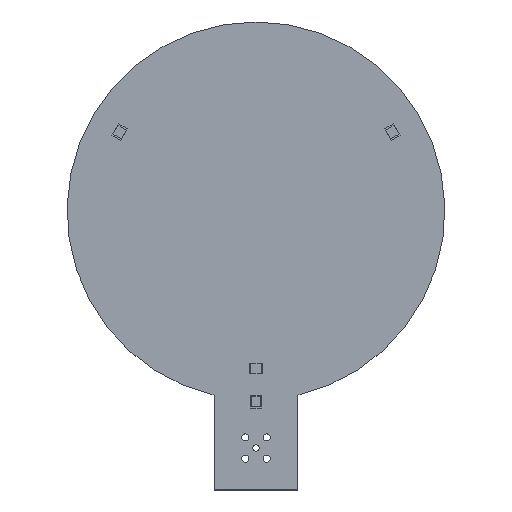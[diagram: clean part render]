
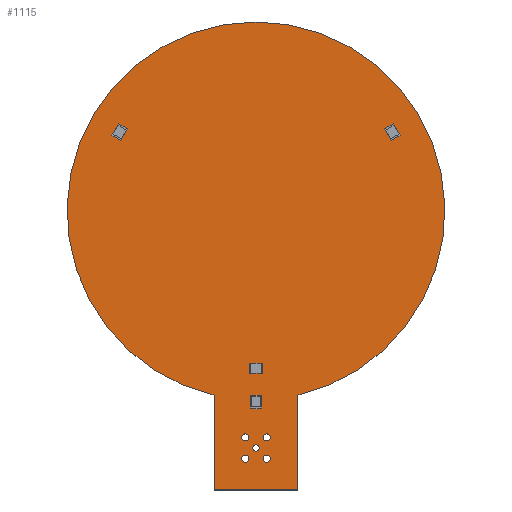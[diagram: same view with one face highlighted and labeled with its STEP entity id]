
A CAD part, top view. The second image highlights one B-rep face of the part: STEP entity #1115.
In plain terms, the highlighted planar face has unit normal (0, 0, 1).
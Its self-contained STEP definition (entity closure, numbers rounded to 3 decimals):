
#946 = VERTEX_POINT('',#947);
#947 = CARTESIAN_POINT('',(90.,-143.875,1.53));
#953 = EDGE_CURVE('',#946,#954,#956,.T.);
#954 = VERTEX_POINT('',#955);
#955 = CARTESIAN_POINT('',(110.,-143.875,1.53));
#956 = CIRCLE('',#957,45.);
#957 = AXIS2_PLACEMENT_3D('',#958,#959,#960);
#958 = CARTESIAN_POINT('',(100.,-100.,1.53));
#959 = DIRECTION('',(0.,0.,-1.));
#960 = DIRECTION('',(-0.222,-0.975,-0.));
#988 = VERTEX_POINT('',#989);
#989 = CARTESIAN_POINT('',(90.,-166.5,1.53));
#995 = EDGE_CURVE('',#988,#946,#996,.T.);
#996 = LINE('',#997,#998);
#997 = CARTESIAN_POINT('',(90.,-166.5,1.53));
#998 = VECTOR('',#999,1.);
#999 = DIRECTION('',(0.,1.,0.));
#1017 = EDGE_CURVE('',#954,#1018,#1020,.T.);
#1018 = VERTEX_POINT('',#1019);
#1019 = CARTESIAN_POINT('',(110.,-166.5,1.53));
#1020 = LINE('',#1021,#1022);
#1021 = CARTESIAN_POINT('',(110.,-143.875,1.53));
#1022 = VECTOR('',#1023,1.);
#1023 = DIRECTION('',(0.,-1.,0.));
#1115 = ADVANCED_FACE('',(#1116,#1127,#1138,#1149,#1160,#1171),#1182,.T.
  );
#1116 = FACE_BOUND('',#1117,.T.);
#1117 = EDGE_LOOP('',(#1118,#1119,#1120,#1126));
#1118 = ORIENTED_EDGE('',*,*,#953,.F.);
#1119 = ORIENTED_EDGE('',*,*,#995,.F.);
#1120 = ORIENTED_EDGE('',*,*,#1121,.F.);
#1121 = EDGE_CURVE('',#1018,#988,#1122,.T.);
#1122 = LINE('',#1123,#1124);
#1123 = CARTESIAN_POINT('',(110.,-166.5,1.53));
#1124 = VECTOR('',#1125,1.);
#1125 = DIRECTION('',(-1.,0.,0.));
#1126 = ORIENTED_EDGE('',*,*,#1017,.F.);
#1127 = FACE_BOUND('',#1128,.T.);
#1128 = EDGE_LOOP('',(#1129));
#1129 = ORIENTED_EDGE('',*,*,#1130,.T.);
#1130 = EDGE_CURVE('',#1131,#1131,#1133,.T.);
#1131 = VERTEX_POINT('',#1132);
#1132 = CARTESIAN_POINT('',(97.46,-159.89,1.53));
#1133 = CIRCLE('',#1134,0.85);
#1134 = AXIS2_PLACEMENT_3D('',#1135,#1136,#1137);
#1135 = CARTESIAN_POINT('',(97.46,-159.04,1.53));
#1136 = DIRECTION('',(-0.,0.,-1.));
#1137 = DIRECTION('',(0.,-1.,0.));
#1138 = FACE_BOUND('',#1139,.T.);
#1139 = EDGE_LOOP('',(#1140));
#1140 = ORIENTED_EDGE('',*,*,#1141,.T.);
#1141 = EDGE_CURVE('',#1142,#1142,#1144,.T.);
#1142 = VERTEX_POINT('',#1143);
#1143 = CARTESIAN_POINT('',(100.,-157.25,1.53));
#1144 = CIRCLE('',#1145,0.75);
#1145 = AXIS2_PLACEMENT_3D('',#1146,#1147,#1148);
#1146 = CARTESIAN_POINT('',(100.,-156.5,1.53));
#1147 = DIRECTION('',(-0.,0.,-1.));
#1148 = DIRECTION('',(-0.,-1.,0.));
#1149 = FACE_BOUND('',#1150,.T.);
#1150 = EDGE_LOOP('',(#1151));
#1151 = ORIENTED_EDGE('',*,*,#1152,.T.);
#1152 = EDGE_CURVE('',#1153,#1153,#1155,.T.);
#1153 = VERTEX_POINT('',#1154);
#1154 = CARTESIAN_POINT('',(102.54,-159.89,1.53));
#1155 = CIRCLE('',#1156,0.85);
#1156 = AXIS2_PLACEMENT_3D('',#1157,#1158,#1159);
#1157 = CARTESIAN_POINT('',(102.54,-159.04,1.53));
#1158 = DIRECTION('',(-0.,0.,-1.));
#1159 = DIRECTION('',(0.,-1.,-0.));
#1160 = FACE_BOUND('',#1161,.T.);
#1161 = EDGE_LOOP('',(#1162));
#1162 = ORIENTED_EDGE('',*,*,#1163,.T.);
#1163 = EDGE_CURVE('',#1164,#1164,#1166,.T.);
#1164 = VERTEX_POINT('',#1165);
#1165 = CARTESIAN_POINT('',(97.46,-154.81,1.53));
#1166 = CIRCLE('',#1167,0.85);
#1167 = AXIS2_PLACEMENT_3D('',#1168,#1169,#1170);
#1168 = CARTESIAN_POINT('',(97.46,-153.96,1.53));
#1169 = DIRECTION('',(-0.,0.,-1.));
#1170 = DIRECTION('',(0.,-1.,0.));
#1171 = FACE_BOUND('',#1172,.T.);
#1172 = EDGE_LOOP('',(#1173));
#1173 = ORIENTED_EDGE('',*,*,#1174,.T.);
#1174 = EDGE_CURVE('',#1175,#1175,#1177,.T.);
#1175 = VERTEX_POINT('',#1176);
#1176 = CARTESIAN_POINT('',(102.54,-154.81,1.53));
#1177 = CIRCLE('',#1178,0.85);
#1178 = AXIS2_PLACEMENT_3D('',#1179,#1180,#1181);
#1179 = CARTESIAN_POINT('',(102.54,-153.96,1.53));
#1180 = DIRECTION('',(-0.,0.,-1.));
#1181 = DIRECTION('',(0.,-1.,-0.));
#1182 = PLANE('',#1183);
#1183 = AXIS2_PLACEMENT_3D('',#1184,#1185,#1186);
#1184 = CARTESIAN_POINT('',(0.,0.,1.53));
#1185 = DIRECTION('',(0.,0.,1.));
#1186 = DIRECTION('',(1.,0.,-0.));
